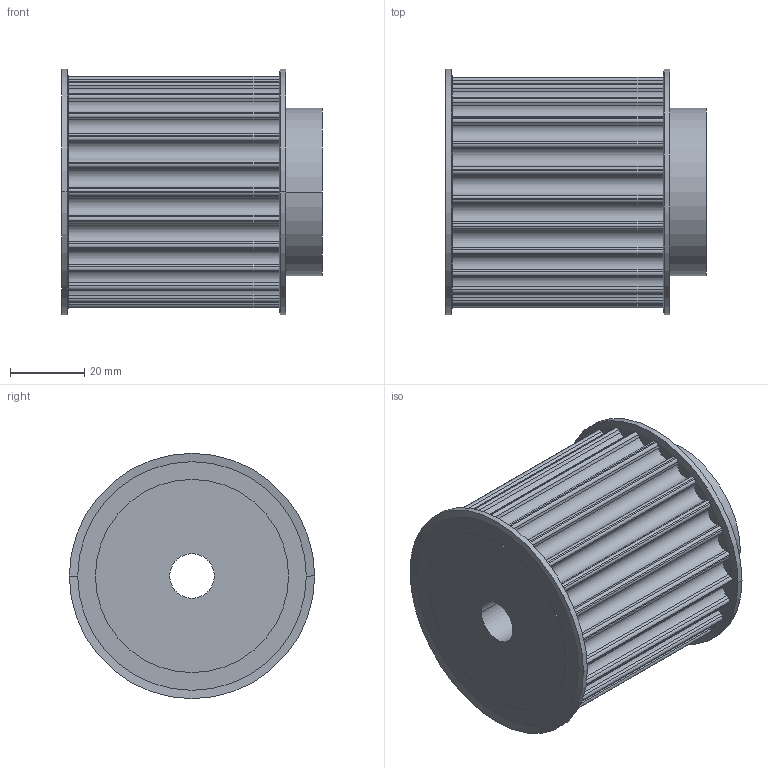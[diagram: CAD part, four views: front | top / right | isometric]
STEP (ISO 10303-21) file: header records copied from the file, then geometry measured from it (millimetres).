
FILE_DESCRIPTION( ( '' ), '1' );
FILE_NAME( 'C:/Users/Stangenbergd/Documents/CAD_Step/1/17441250.stp', '2021-10-19T10:12:10', ( '' ), ( '' ), ' ', ' ', ' ' );
FILE_SCHEMA( ( 'CONFIG_CONTROL_DESIGN' ) );
Length unit declared in the file: millimetre
Products named in the file (1): 1
Bounding box: 70.17 x 66 x 66 mm (x, y, z)
Volume: 170531.4 mm3; surface area: 28274.4 mm2
Topology: 1 solids, 1 shells, 276 faces, 705 edges, 434 vertices
Faces by surface type: plane 155, cylinder 113, cone 8
Entity records: 8507 total; most frequent: DIRECTION 1693, CARTESIAN_POINT 1416, ORIENTED_EDGE 1410, AXIS2_PLACEMENT_3D 711, EDGE_CURVE 705, VERTEX_POINT 434, CIRCLE 434, EDGE_LOOP 281
